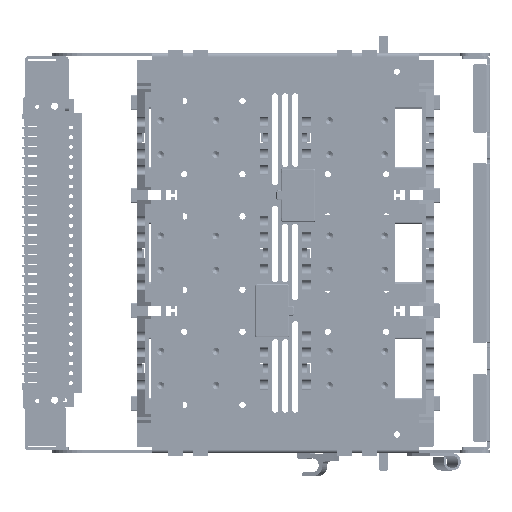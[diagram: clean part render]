
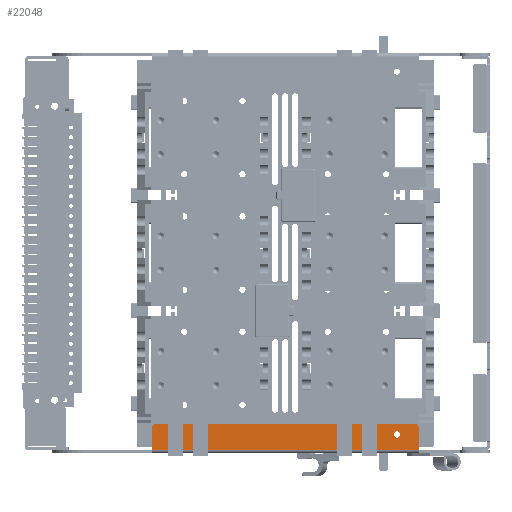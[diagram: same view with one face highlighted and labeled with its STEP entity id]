
A CAD part, left-side view. The second image highlights one B-rep face of the part: STEP entity #22048.
In plain terms, the highlighted planar face has unit normal (-1, 0, 0).
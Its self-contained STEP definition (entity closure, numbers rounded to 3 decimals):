
#17259=CARTESIAN_POINT('',(0.,315.45,15.6));
#17260=DIRECTION('',(1.,0.,0.));
#17261=DIRECTION('',(0.,0.,-1.));
#17262=AXIS2_PLACEMENT_3D('',#17259,#17260,#17261);
#17264=CARTESIAN_POINT('',(0.,315.45,15.6));
#17265=DIRECTION('',(1.,0.,0.));
#17266=DIRECTION('',(0.,0.,1.));
#17267=AXIS2_PLACEMENT_3D('',#17264,#17265,#17266);
#17269=CARTESIAN_POINT('',(0.,290.95,15.6));
#17270=DIRECTION('',(1.,0.,0.));
#17271=DIRECTION('',(0.,0.,-1.));
#17272=AXIS2_PLACEMENT_3D('',#17269,#17270,#17271);
#17274=CARTESIAN_POINT('',(0.,290.95,15.6));
#17275=DIRECTION('',(1.,0.,0.));
#17276=DIRECTION('',(0.,0.,1.));
#17277=AXIS2_PLACEMENT_3D('',#17274,#17275,#17276);
#17279=CARTESIAN_POINT('',(0.,92.75,15.6));
#17280=DIRECTION('',(1.,0.,0.));
#17281=DIRECTION('',(0.,0.,-1.));
#17282=AXIS2_PLACEMENT_3D('',#17279,#17280,#17281);
#17284=CARTESIAN_POINT('',(0.,92.75,15.6));
#17285=DIRECTION('',(1.,0.,0.));
#17286=DIRECTION('',(0.,0.,1.));
#17287=AXIS2_PLACEMENT_3D('',#17284,#17285,#17286);
#17289=CARTESIAN_POINT('',(0.,117.25,15.6));
#17290=DIRECTION('',(1.,0.,0.));
#17291=DIRECTION('',(0.,0.,-1.));
#17292=AXIS2_PLACEMENT_3D('',#17289,#17290,#17291);
#17294=CARTESIAN_POINT('',(0.,117.25,15.6));
#17295=DIRECTION('',(1.,0.,0.));
#17296=DIRECTION('',(0.,0.,1.));
#17297=AXIS2_PLACEMENT_3D('',#17294,#17295,#17296);
#17299=CARTESIAN_POINT('',(0.,332.15,21.4));
#17300=DIRECTION('',(1.,0.,0.));
#17301=DIRECTION('',(0.,1.,0.));
#17302=AXIS2_PLACEMENT_3D('',#17299,#17300,#17301);
#17304=CARTESIAN_POINT('',(0.,76.,21.4));
#17305=DIRECTION('',(1.,0.,0.));
#17306=DIRECTION('',(0.,0.,1.));
#17307=AXIS2_PLACEMENT_3D('',#17304,#17305,#17306);
#17309=DIRECTION('',(0.,0.,1.));
#17310=VECTOR('',#17309,20.9);
#17311=CARTESIAN_POINT('',(0.,71.,0.5));
#17312=LINE('',#17311,#17310);
#17313=DIRECTION('',(0.,-1.,0.));
#17314=VECTOR('',#17313,266.15);
#17315=CARTESIAN_POINT('',(0.,337.15,0.5));
#17316=LINE('',#17315,#17314);
#17317=DIRECTION('',(0.,0.,-1.));
#17318=VECTOR('',#17317,20.9);
#17319=CARTESIAN_POINT('',(0.,337.15,21.4));
#17320=LINE('',#17319,#17318);
#17361=DIRECTION('',(0.,1.,0.));
#17362=VECTOR('',#17361,256.15);
#17363=CARTESIAN_POINT('',(0.,76.,26.4));
#17364=LINE('',#17363,#17362);
#19004=CARTESIAN_POINT('',(0.,337.15,21.4));
#19005=VERTEX_POINT('',#19004);
#19006=CARTESIAN_POINT('',(0.,332.15,26.4));
#19007=VERTEX_POINT('',#19006);
#19008=CARTESIAN_POINT('',(0.,76.,26.4));
#19009=CARTESIAN_POINT('',(0.,71.,21.4));
#19010=VERTEX_POINT('',#19008);
#19011=VERTEX_POINT('',#19009);
#19017=CARTESIAN_POINT('',(0.,71.,0.5));
#19019=VERTEX_POINT('',#19017);
#19020=CARTESIAN_POINT('',(0.,337.15,0.5));
#19021=VERTEX_POINT('',#19020);
#19800=CARTESIAN_POINT('',(0.,315.45,12.5));
#19801=CARTESIAN_POINT('',(0.,315.45,18.7));
#19802=VERTEX_POINT('',#19800);
#19803=VERTEX_POINT('',#19801);
#19804=CARTESIAN_POINT('',(0.,290.95,12.5));
#19805=CARTESIAN_POINT('',(0.,290.95,18.7));
#19806=VERTEX_POINT('',#19804);
#19807=VERTEX_POINT('',#19805);
#19808=CARTESIAN_POINT('',(0.,92.75,12.5));
#19809=CARTESIAN_POINT('',(0.,92.75,18.7));
#19810=VERTEX_POINT('',#19808);
#19811=VERTEX_POINT('',#19809);
#19812=CARTESIAN_POINT('',(0.,117.25,12.5));
#19813=CARTESIAN_POINT('',(0.,117.25,18.7));
#19814=VERTEX_POINT('',#19812);
#19815=VERTEX_POINT('',#19813);
#22008=CARTESIAN_POINT('',(0.,337.15,0.));
#22009=DIRECTION('',(1.,0.,0.));
#22010=DIRECTION('',(0.,-1.,0.));
#22011=AXIS2_PLACEMENT_3D('',#22008,#22009,#22010);
#22012=PLANE('',#22011);
#22013=ORIENTED_EDGE('',*,*,#21945,.T.);
#22015=ORIENTED_EDGE('',*,*,#22014,.F.);
#22017=ORIENTED_EDGE('',*,*,#22016,.T.);
#22019=ORIENTED_EDGE('',*,*,#22018,.F.);
#22021=ORIENTED_EDGE('',*,*,#22020,.F.);
#22022=ORIENTED_EDGE('',*,*,#21922,.F.);
#22023=EDGE_LOOP('',(#22013,#22015,#22017,#22019,#22021,#22022));
#22024=FACE_OUTER_BOUND('',#22023,.F.);
#22025=ORIENTED_EDGE('',*,*,#21998,.F.);
#22027=ORIENTED_EDGE('',*,*,#22026,.F.);
#22028=EDGE_LOOP('',(#22025,#22027));
#22029=FACE_BOUND('',#22028,.F.);
#22031=ORIENTED_EDGE('',*,*,#22030,.F.);
#22033=ORIENTED_EDGE('',*,*,#22032,.F.);
#22034=EDGE_LOOP('',(#22031,#22033));
#22035=FACE_BOUND('',#22034,.F.);
#22037=ORIENTED_EDGE('',*,*,#22036,.F.);
#22039=ORIENTED_EDGE('',*,*,#22038,.F.);
#22040=EDGE_LOOP('',(#22037,#22039));
#22041=FACE_BOUND('',#22040,.F.);
#22043=ORIENTED_EDGE('',*,*,#22042,.F.);
#22045=ORIENTED_EDGE('',*,*,#22044,.F.);
#22046=EDGE_LOOP('',(#22043,#22045));
#22047=FACE_BOUND('',#22046,.F.);
#22048=ADVANCED_FACE('',(#22024,#22029,#22035,#22041,#22047),#22012,.F.);
#17263=CIRCLE('',#17262,3.1);
#17268=CIRCLE('',#17267,3.1);
#17273=CIRCLE('',#17272,3.1);
#17278=CIRCLE('',#17277,3.1);
#17283=CIRCLE('',#17282,3.1);
#17288=CIRCLE('',#17287,3.1);
#17293=CIRCLE('',#17292,3.1);
#17298=CIRCLE('',#17297,3.1);
#17303=CIRCLE('',#17302,5.);
#17308=CIRCLE('',#17307,5.);
#21922=EDGE_CURVE('',#19005,#19021,#17320,.T.);
#21945=EDGE_CURVE('',#19005,#19007,#17303,.T.);
#21998=EDGE_CURVE('',#19802,#19803,#17263,.T.);
#22014=EDGE_CURVE('',#19010,#19007,#17364,.T.);
#22016=EDGE_CURVE('',#19010,#19011,#17308,.T.);
#22018=EDGE_CURVE('',#19019,#19011,#17312,.T.);
#22020=EDGE_CURVE('',#19021,#19019,#17316,.T.);
#22026=EDGE_CURVE('',#19803,#19802,#17268,.T.);
#22030=EDGE_CURVE('',#19806,#19807,#17273,.T.);
#22032=EDGE_CURVE('',#19807,#19806,#17278,.T.);
#22036=EDGE_CURVE('',#19810,#19811,#17283,.T.);
#22038=EDGE_CURVE('',#19811,#19810,#17288,.T.);
#22042=EDGE_CURVE('',#19814,#19815,#17293,.T.);
#22044=EDGE_CURVE('',#19815,#19814,#17298,.T.);
